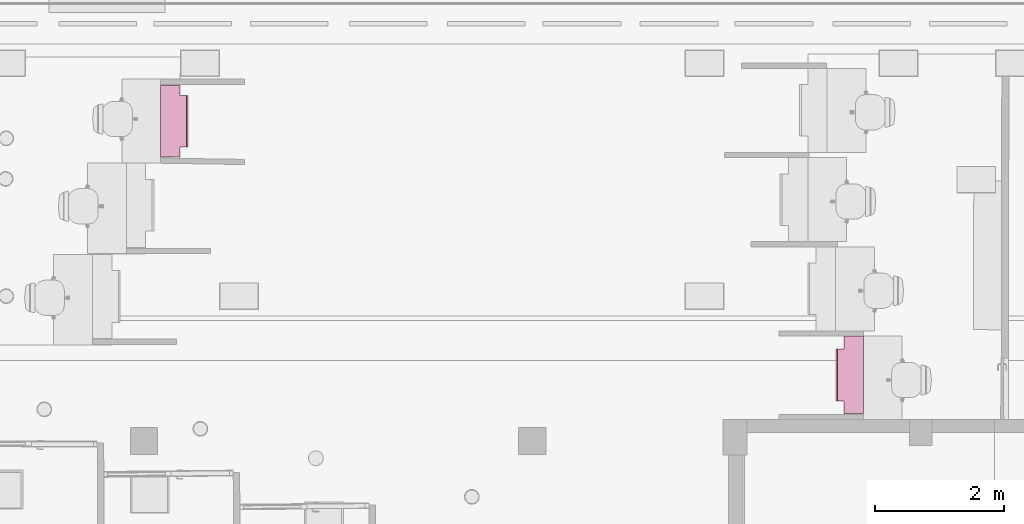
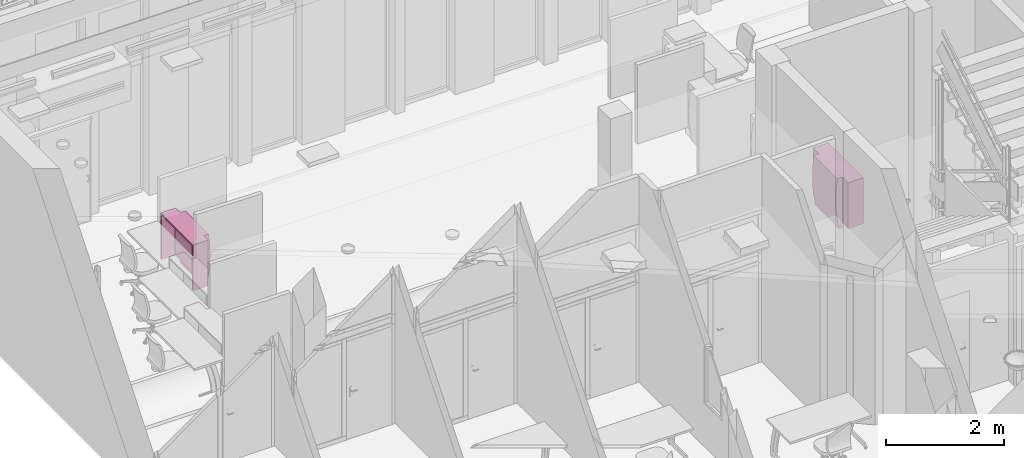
# One storey, part 123 of 128: 2 furnishings.
"""IFC2X3 building model written with IfcOpenShell, lengths in metres."""

from ifc_helpers import new_model, entity, si_unit, converted_unit, derived_unit, direction, frame, origin, place, context, subcontext, project, spatial, faceted_brep, source, transform, mapped, material, type_object, type_shapes, element, save


model = new_model("IFC2X3")

# Units and contexts
model_context = context("Model", 3, precision=1e-05, world=origin(), true_north=direction((6.123031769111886e-17, 1.0)))
body_context = subcontext(model_context, "Body", "Model", "MODEL_VIEW")
ifc_project = project(units=[si_unit("LENGTHUNIT", "METRE"), si_unit("AREAUNIT", "SQUARE_METRE"), converted_unit("PLANEANGLEUNIT", "DEGREE", entity("IfcPlaneAngleMeasure", 0.017453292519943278), si_unit("PLANEANGLEUNIT", "RADIAN"), dimensions=[0, 0, 0, 0, 0, 0, 0]), derived_unit("THERMALTRANSMITTANCEUNIT", [(si_unit("MASSUNIT", "GRAM", prefix="KILO"), 1), (si_unit("THERMODYNAMICTEMPERATUREUNIT", "KELVIN"), -1), (si_unit("TIMEUNIT", "SECOND"), -3)])], contexts=[model_context])

# Site, building, storey
site_placement = place(None, origin())
site = spatial("IfcSite", under=ifc_project, at=site_placement, Name="Default", CompositionType="ELEMENT")
building_placement = place(site_placement, origin())
building = spatial("IfcBuilding", under=site, at=building_placement, CompositionType="ELEMENT")
storey_placement = place(building_placement, origin())
storey = spatial("IfcBuildingStorey", under=building, at=storey_placement, Name="00_RDC CAF", CompositionType="ELEMENT", Elevation=2.4982504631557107e-13)

# Furnishings
ifc_material = material(Name="ARC - Mo - Blanc")
furniture_type_1 = type_object("IfcFurnitureType", Name="Mo_Comptoir_Accueil:Mo_Table_1200x400x1200mm", AssemblyPlace="NOTDEFINED", material=ifc_material)
shared_shape_1 = source(origin(), body_context, "Body", "Brep", [
    faceted_brep([(-0.4000000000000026, -0.14999999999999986, 0.95), (-0.5999999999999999, -0.14999999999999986, 0.95), (-0.5999999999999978, -0.14999999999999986, 0.0), (-0.4000000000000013, -0.14999999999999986, 0.0), (0.6000000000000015, -0.14999999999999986, 0.95), (0.4000000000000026, -0.14999999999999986, 0.95), (0.4000000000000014, -0.14999999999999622, 0.0), (0.6000000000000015, -0.14999999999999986, 0.0), (-0.5999999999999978, 0.1500000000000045, 0.0), (-0.5699999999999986, 0.1500000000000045, 0.0), (-0.5699999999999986, -0.11999999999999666, 0.0), (0.5700000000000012, -0.11999999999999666, 0.0), (0.5700000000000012, 0.1500000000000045, 0.0), (0.6000000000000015, 0.1500000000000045, 0.0), (-0.5699999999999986, -0.11999999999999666, 0.92), (0.5700000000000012, -0.11999999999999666, 0.92), (-0.5999999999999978, 0.15000000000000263, 0.95), (0.6000000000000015, 0.15000000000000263, 0.95), (-0.4000000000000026, -0.25000000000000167, 0.95), (0.4000000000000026, -0.25000000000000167, 0.95), (-0.5699999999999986, 0.1500000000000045, 0.92), (0.5700000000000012, 0.1500000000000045, 0.92), (-0.4000000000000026, -0.14999999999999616, -0.09999999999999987), (-0.4000000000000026, -0.21547744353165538, -0.09999999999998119), (-0.4000000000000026, -0.24544768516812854, 0.06825699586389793), (-0.4000000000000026, -0.26578784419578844, 0.23794762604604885), (-0.4000000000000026, -0.2764319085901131, 0.4085211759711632), (-0.4000000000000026, -0.27734533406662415, 0.5794240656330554), (-0.4000000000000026, -0.26852515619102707, 0.7501016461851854), (-0.4000000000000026, -0.25000000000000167, 0.92), (0.4000000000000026, -0.25000000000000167, 0.92), (0.4000000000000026, -0.2685251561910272, 0.7501016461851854), (0.4000000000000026, -0.2773453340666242, 0.5794240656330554), (0.4000000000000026, -0.27643190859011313, 0.4085211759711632), (0.4000000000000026, -0.2657878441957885, 0.23794762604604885), (0.4000000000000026, -0.24544768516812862, 0.06825699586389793), (0.4000000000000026, -0.21547744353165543, -0.09999999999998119), (0.4000000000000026, -0.14999999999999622, -0.09999999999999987)], [[[0, 1, 2, 3]], [[4, 5, 6, 7]], [[8, 9, 10, 11, 12, 13, 7, 6, 3, 2]], [[14, 15, 11, 10]], [[1, 16, 8, 2]], [[17, 4, 7, 13]], [[17, 16, 1, 0, 18, 19, 5, 4]], [[14, 20, 21, 15]], [[20, 14, 10, 9]], [[17, 13, 12, 21, 20, 9, 8, 16]], [[15, 21, 12, 11]], [[0, 3, 22, 23, 24, 25, 26, 27, 28, 29, 18]], [[19, 18, 29, 30]], [[31, 32, 33, 34, 35, 36, 37, 6, 5, 19, 30]], [[31, 30, 29, 28]], [[32, 31, 28, 27]], [[33, 32, 27, 26]], [[35, 34, 25, 24]], [[36, 35, 24, 23]], [[26, 25, 34, 33]], [[37, 36, 23, 22]], [[6, 37, 22, 3]]]),
])
type_shapes(furniture_type_1, [shared_shape_1])
furnishing_1_placement = place(storey_placement, frame((20.705521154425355, 137.5718443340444, 0.15999999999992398), z_axis=(0.0, 0.0, 1.0), x_axis=(0.0, -1.0, 0.0)))
element("IfcFurnishingElement", 1, at=furnishing_1_placement, inside=storey, type_object=furniture_type_1, material=ifc_material, Name="Mo_Comptoir_Accueil:Mo_Table_1200x400x1200mm", ObjectType="Mo_Comptoir_Accueil:Mo_Table_1200x400x1200mm", context=body_context, shape_type="MappedRepresentation", body=[
    mapped(shared_shape_1, transform((0.0, 0.0, 0.0), scale=1.0)),
])
furniture_type_2 = type_object("IfcFurnitureType", Name="Mo_Comptoir_Accueil:Mo_Table_1100x400x1200mm", AssemblyPlace="NOTDEFINED", material=ifc_material)
shared_shape_2 = source(origin(), body_context, "Body", "Brep", [
    faceted_brep([(-0.4000000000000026, -0.14999999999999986, 0.95), (-0.55, -0.14999999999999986, 0.95), (-0.5499999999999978, -0.14999999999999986, 0.0), (-0.4000000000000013, -0.14999999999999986, 0.0), (0.5500000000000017, -0.14999999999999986, 0.95), (0.4000000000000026, -0.14999999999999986, 0.95), (0.4000000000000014, -0.14999999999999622, 0.0), (0.5500000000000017, -0.14999999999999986, 0.0), (-0.5499999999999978, 0.1500000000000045, 0.0), (-0.5199999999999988, 0.1500000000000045, 0.0), (-0.5199999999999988, -0.11999999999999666, 0.0), (0.5200000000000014, -0.11999999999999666, 0.0), (0.5200000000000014, 0.1500000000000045, 0.0), (0.5500000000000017, 0.1500000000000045, 0.0), (-0.5199999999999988, -0.11999999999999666, 0.92), (0.5200000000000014, -0.11999999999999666, 0.92), (-0.5499999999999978, 0.15000000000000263, 0.95), (0.5500000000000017, 0.15000000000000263, 0.95), (-0.4000000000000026, -0.25000000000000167, 0.95), (0.4000000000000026, -0.25000000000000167, 0.95), (-0.5199999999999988, 0.1500000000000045, 0.92), (0.5200000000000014, 0.1500000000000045, 0.92), (-0.4000000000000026, -0.14999999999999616, -0.09999999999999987), (-0.4000000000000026, -0.21547744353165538, -0.09999999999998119), (-0.4000000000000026, -0.24544768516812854, 0.06825699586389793), (-0.4000000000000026, -0.26578784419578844, 0.23794762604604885), (-0.4000000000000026, -0.2764319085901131, 0.4085211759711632), (-0.4000000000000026, -0.27734533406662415, 0.5794240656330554), (-0.4000000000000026, -0.26852515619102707, 0.7501016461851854), (-0.4000000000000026, -0.25000000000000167, 0.92), (0.4000000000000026, -0.25000000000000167, 0.92), (0.4000000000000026, -0.2685251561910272, 0.7501016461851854), (0.4000000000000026, -0.2773453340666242, 0.5794240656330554), (0.4000000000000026, -0.27643190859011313, 0.4085211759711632), (0.4000000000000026, -0.2657878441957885, 0.23794762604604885), (0.4000000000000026, -0.24544768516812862, 0.06825699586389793), (0.4000000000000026, -0.21547744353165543, -0.09999999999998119), (0.4000000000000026, -0.14999999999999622, -0.09999999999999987)], [[[0, 1, 2, 3]], [[4, 5, 6, 7]], [[8, 9, 10, 11, 12, 13, 7, 6, 3, 2]], [[14, 15, 11, 10]], [[1, 16, 8, 2]], [[17, 4, 7, 13]], [[17, 16, 1, 0, 18, 19, 5, 4]], [[14, 20, 21, 15]], [[20, 14, 10, 9]], [[17, 13, 12, 21, 20, 9, 8, 16]], [[15, 21, 12, 11]], [[0, 3, 22, 23, 24, 25, 26, 27, 28, 29, 18]], [[19, 18, 29, 30]], [[31, 32, 33, 34, 35, 36, 37, 6, 5, 19, 30]], [[31, 30, 29, 28]], [[32, 31, 28, 27]], [[33, 32, 27, 26]], [[35, 34, 25, 24]], [[36, 35, 24, 23]], [[26, 25, 34, 33]], [[37, 36, 23, 22]], [[6, 37, 22, 3]]]),
])
type_shapes(furniture_type_2, [shared_shape_2])
furnishing_2_placement = place(storey_placement, frame((10.137702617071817, 141.49467657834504, 0.15999999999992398), z_axis=(0.0, 0.0, 1.0), x_axis=(0.0, 1.0, 0.0)))
element("IfcFurnishingElement", 2, at=furnishing_2_placement, inside=storey, type_object=furniture_type_2, material=ifc_material, Name="Mo_Comptoir_Accueil:Mo_Table_1100x400x1200mm", ObjectType="Mo_Comptoir_Accueil:Mo_Table_1100x400x1200mm", context=body_context, shape_type="MappedRepresentation", body=[
    mapped(shared_shape_2, transform((0.0, 0.0, 0.0), scale=1.0)),
])

save(model, "model.ifc")
